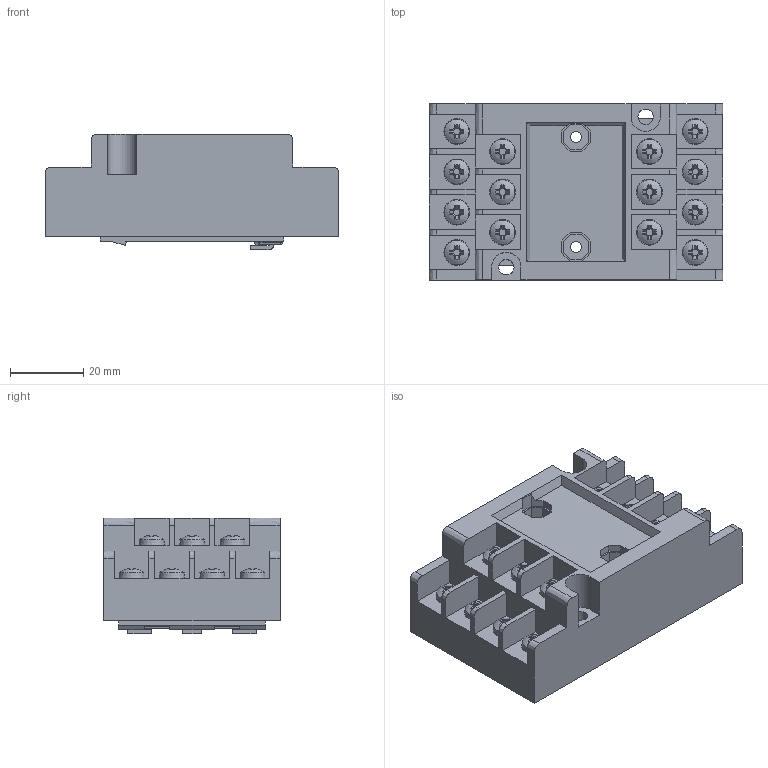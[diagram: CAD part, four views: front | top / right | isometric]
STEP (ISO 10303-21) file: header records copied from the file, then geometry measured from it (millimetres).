
FILE_DESCRIPTION((''),'2;1');
FILE_NAME('K:\TB\Bibliotheek\Inventor\Relais voeten\V23BR\V23BR.stp','2008-08-18T09:49:40',('Niriawan'),(''),'Autodesk Inventor 2009','Autodesk Inventor 2009','');
FILE_SCHEMA(('AUTOMOTIVE_DESIGN { 1 0 10303 214 1 1 1 1 }'));
Length unit declared in the file: millimetre
Products named in the file (1): V23BR
Bounding box: 80 x 48 x 31.6 mm (x, y, z)
Volume: 82528.7 mm3; surface area: 20529.5 mm2
Topology: 1 solids, 17 shells, 704 faces, 1964 edges, 1297 vertices
Faces by surface type: plane 435, cone 182, bspline 52, sphere 18, cylinder 17
Full cylindrical faces by diameter (mm): 2 x2
Entity records: 23475 total; most frequent: CARTESIAN_POINT 6150, ORIENTED_EDGE 3696, DIRECTION 3391, EDGE_CURVE 1848, VERTEX_POINT 1249, AXIS2_PLACEMENT_3D 1206, VECTOR 979, LINE 979
